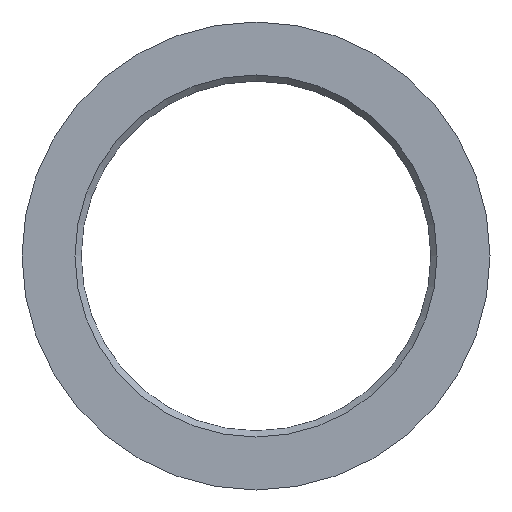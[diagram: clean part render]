
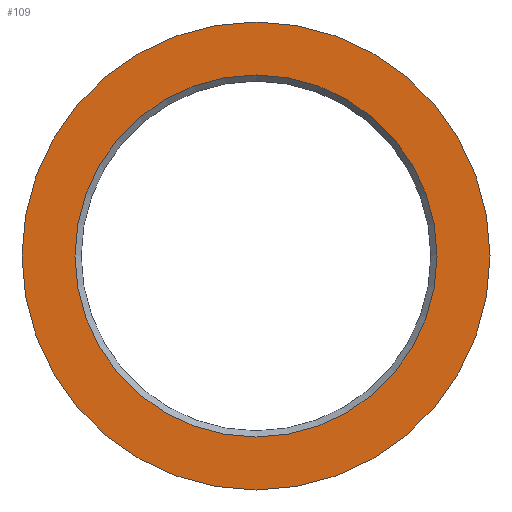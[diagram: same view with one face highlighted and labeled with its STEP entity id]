
A CAD part, front view. The second image highlights one B-rep face of the part: STEP entity #109.
In plain terms, the highlighted planar face has unit normal (0, -1, 0).
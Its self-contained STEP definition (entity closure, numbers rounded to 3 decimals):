
#16=FACE_BOUND('',#34,.T.);
#18=PLANE('',#144);
#25=FACE_OUTER_BOUND('',#33,.T.);
#33=EDGE_LOOP('',(#90));
#34=EDGE_LOOP('',(#91));
#51=CIRCLE('',#143,29.05);
#52=CIRCLE('',#145,37.55);
#59=VERTEX_POINT('',#202);
#60=VERTEX_POINT('',#206);
#70=EDGE_CURVE('',#59,#59,#51,.T.);
#71=EDGE_CURVE('',#60,#60,#52,.T.);
#90=ORIENTED_EDGE('',*,*,#71,.F.);
#91=ORIENTED_EDGE('',*,*,#70,.F.);
#109=ADVANCED_FACE('',(#25,#16),#18,.F.);
#143=AXIS2_PLACEMENT_3D('',#204,#171,#172);
#144=AXIS2_PLACEMENT_3D('',#205,#173,#174);
#145=AXIS2_PLACEMENT_3D('',#207,#175,#176);
#171=DIRECTION('center_axis',(0.,-1.,0.));
#172=DIRECTION('ref_axis',(1.,0.,0.));
#173=DIRECTION('center_axis',(0.,1.,0.));
#174=DIRECTION('ref_axis',(0.,0.,1.));
#175=DIRECTION('center_axis',(0.,1.,0.));
#176=DIRECTION('ref_axis',(-1.,0.,0.));
#202=CARTESIAN_POINT('',(-29.05,0.,0.));
#204=CARTESIAN_POINT('Origin',(0.,0.,0.));
#205=CARTESIAN_POINT('Origin',(0.,0.,0.));
#206=CARTESIAN_POINT('',(-37.55,0.,0.));
#207=CARTESIAN_POINT('Origin',(0.,0.,0.));
